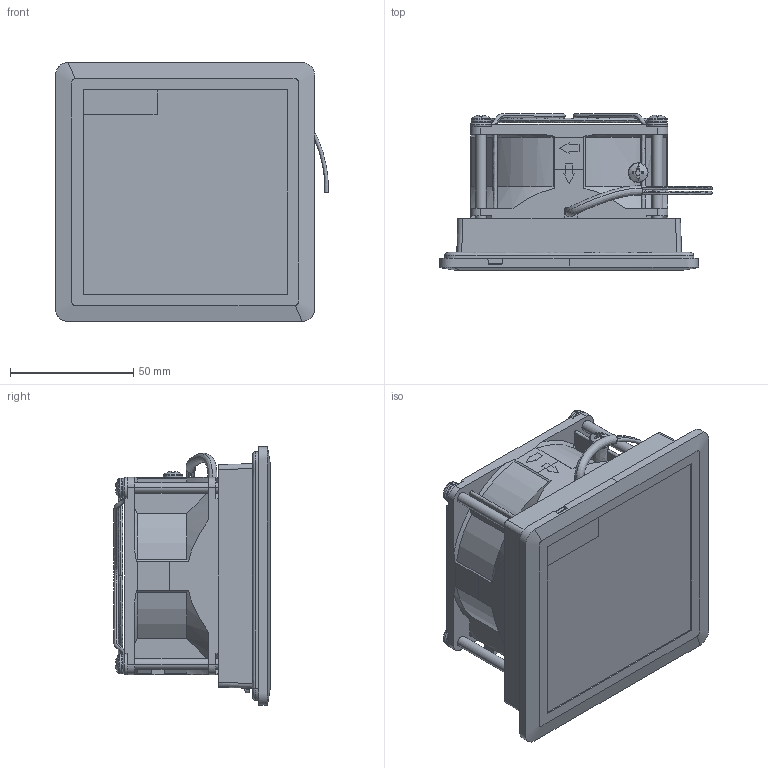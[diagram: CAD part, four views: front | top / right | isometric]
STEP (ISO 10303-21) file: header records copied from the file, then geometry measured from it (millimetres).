
FILE_DESCRIPTION(/* description */ (''),/* implementation_level */ '2;1');
FILE_NAME(/* name */ 'FP9172~1',/* time_stamp */ '2019-06-04T15:04:07+02:00',/* author */ (''),/* organization */ (''),/* preprocessor_version */ 'ST-DEVELOPER v14',/* originating_system */ '',/* authorisation */ '');
FILE_SCHEMA (('AUTOMOTIVE_DESIGN'));
Length unit declared in the file: millimetre
Products named in the file (1): Document
Bounding box: 110.56 x 63.4 x 105 mm (x, y, z)
Volume: 9989 mm3; surface area: 54296.3 mm2
Topology: 16 solids, 21 shells, 448 faces, 1253 edges, 838 vertices
Faces by surface type: bspline 258, plane 190
Entity records: 41106 total; most frequent: CARTESIAN_POINT 33888, ORIENTED_EDGE 2428, EDGE_CURVE 1247, VERTEX_POINT 838, B_SPLINE_CURVE_WITH_KNOTS 612, EDGE_LOOP 484, ADVANCED_FACE 448, FACE_OUTER_BOUND 448
